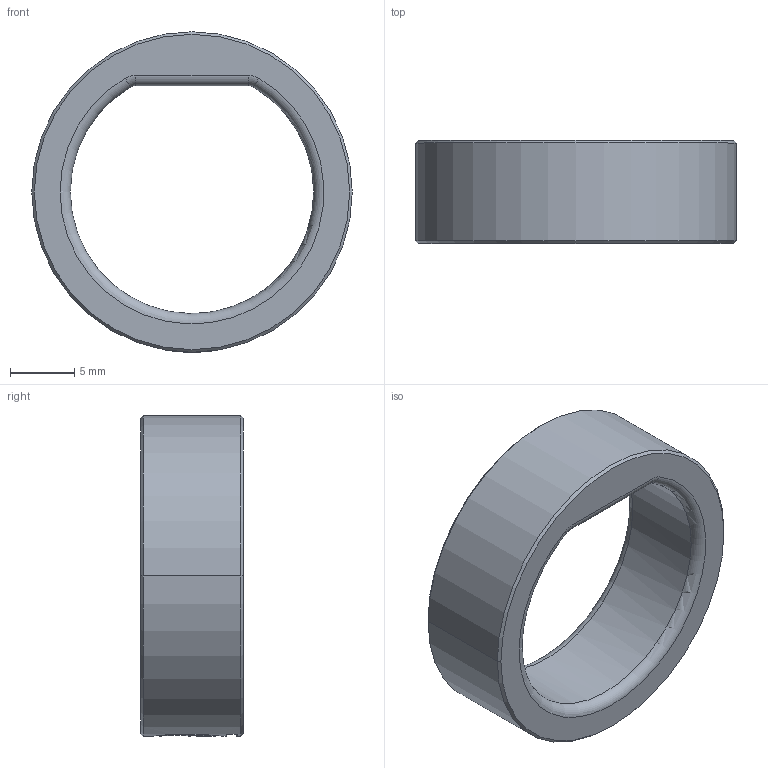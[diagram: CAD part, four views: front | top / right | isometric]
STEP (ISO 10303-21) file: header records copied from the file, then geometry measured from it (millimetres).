
FILE_DESCRIPTION((''),'2;1');
FILE_NAME('9','2026-09-02T14:10:47',('krisl'),(''),'CREO PARAMETRIC BY PTC INC, 2024063','CREO PARAMETRIC BY PTC INC, 2024063','');
FILE_SCHEMA(('CONFIG_CONTROL_DESIGN'));
Length unit declared in the file: millimetre
Products named in the file (1): 9
Bounding box: 24.9 x 8 x 24.9 mm (x, y, z)
Volume: 1688.7 mm3; surface area: 1473.1 mm2
Topology: 1 solids, 1 shells, 87 faces, 246 edges, 164 vertices
Faces by surface type: bspline 64, cylinder 10, torus 6, cone 4, plane 3
Entity records: 3692 total; most frequent: CARTESIAN_POINT 1841, ORIENTED_EDGE 492, EDGE_CURVE 246, DIRECTION 190, VERTEX_POINT 164, B_SPLINE_CURVE_WITH_KNOTS 160, EDGE_LOOP 92, FACE_OUTER_BOUND 87
